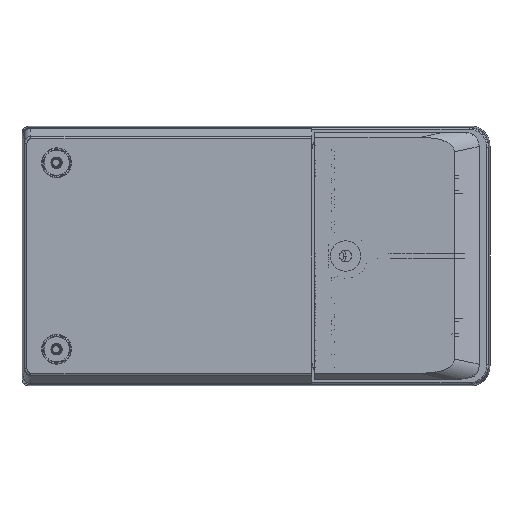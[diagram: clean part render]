
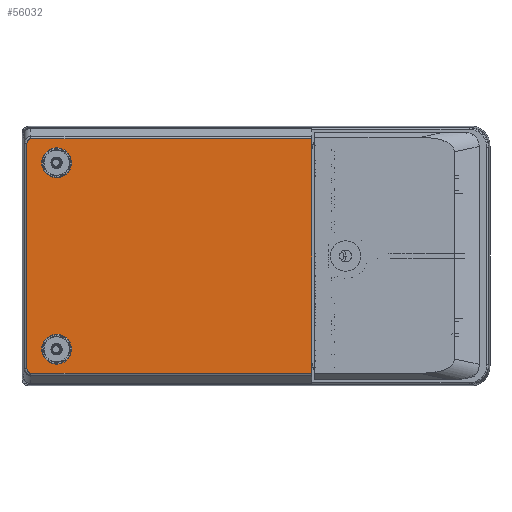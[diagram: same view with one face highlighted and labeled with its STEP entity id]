
A CAD part, front view. The second image highlights one B-rep face of the part: STEP entity #56032.
In plain terms, the highlighted planar face has unit normal (0, -1, 0).
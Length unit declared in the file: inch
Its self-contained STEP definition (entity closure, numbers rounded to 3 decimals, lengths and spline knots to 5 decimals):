
#1891 =( BOUNDED_CURVE ( )  B_SPLINE_CURVE ( 3, ( #24156, #60925, #67048, #30338 ),
 .UNSPECIFIED., .F., .F. ) 
 B_SPLINE_CURVE_WITH_KNOTS ( ( 4, 4 ),
 ( 0., 1.5348 ),
 .UNSPECIFIED. ) 
 CURVE ( )  GEOMETRIC_REPRESENTATION_ITEM ( )  RATIONAL_B_SPLINE_CURVE ( ( 1., 0.813, 0.813, 1. ) ) 
 REPRESENTATION_ITEM ( '' )  );
#3495 = EDGE_CURVE ( 'NONE', #41971, #4680, #66405, .T. ) ;
#3788 = DIRECTION ( 'NONE',  ( 0., 1., 0. ) ) ;
#4680 = VERTEX_POINT ( 'NONE', #6554 ) ;
#4754 = CIRCLE ( 'NONE', #47101, 0.1325 ) ;
#4830 = EDGE_CURVE ( 'NONE', #28452, #29297, #68398, .T. ) ;
#5038 = DIRECTION ( 'NONE',  ( 0., 0., 1. ) ) ;
#6554 = CARTESIAN_POINT ( 'NONE',  ( -1.99831, -0.48, 1.03959 ) ) ;
#7003 = LINE ( 'NONE', #9045, #54145 ) ;
#9045 = CARTESIAN_POINT ( 'NONE',  ( -1.99712, -0.48, 1.0396 ) ) ;
#9421 = ORIENTED_EDGE ( 'NONE', *, *, #73225, .F. ) ;
#10207 = CARTESIAN_POINT ( 'NONE',  ( -2.03205, -0.48, -0.98631 ) ) ;
#11503 = AXIS2_PLACEMENT_3D ( 'NONE', #78492, #41924, #5038 ) ;
#11880 = VERTEX_POINT ( 'NONE', #47797 ) ;
#12666 = PLANE ( 'NONE',  #27396 ) ;
#12914 = CARTESIAN_POINT ( 'NONE',  ( -2.065, -0.48, -1.14 ) ) ;
#13990 = DIRECTION ( 'NONE',  ( 0., 0., -1. ) ) ;
#14758 = CARTESIAN_POINT ( 'NONE',  ( -1.769, -0.48, -0.9595 ) ) ;
#14849 = CARTESIAN_POINT ( 'NONE',  ( -1.769, -0.48, 0.827 ) ) ;
#16718 = LINE ( 'NONE', #68553, #31126 ) ;
#16874 = VERTEX_POINT ( 'NONE', #40749 ) ;
#17002 = CARTESIAN_POINT ( 'NONE',  ( -1.769, -0.48, 0.6945 ) ) ;
#19114 = DIRECTION ( 'NONE',  ( 0., 0., 1. ) ) ;
#19246 = ORIENTED_EDGE ( 'NONE', *, *, #4830, .F. ) ;
#21077 = DIRECTION ( 'NONE',  ( 0., 0., 1. ) ) ;
#23318 = CARTESIAN_POINT ( 'NONE',  ( -2.03205, -0.48, -1.02321 ) ) ;
#23819 = CARTESIAN_POINT ( 'NONE',  ( -1.99734, -0.48, 1.0396 ) ) ;
#24086 = CARTESIAN_POINT ( 'NONE',  ( -1.99831, -0.48, 1.03959 ) ) ;
#24156 = CARTESIAN_POINT ( 'NONE',  ( -1.99831, -0.48, 1.03959 ) ) ;
#24173 = CARTESIAN_POINT ( 'NONE',  ( -1.99767, -0.48, 1.0396 ) ) ;
#24242 = CARTESIAN_POINT ( 'NONE',  ( -1.99799, -0.48, 1.0396 ) ) ;
#26215 = FACE_BOUND ( 'NONE', #50357, .T. ) ;
#27372 = VERTEX_POINT ( 'NONE', #14758 ) ;
#27396 = AXIS2_PLACEMENT_3D ( 'NONE', #12914, #55919, #19114 ) ;
#27594 = EDGE_CURVE ( 'NONE', #56268, #79549, #72895, .T. ) ;
#27900 = AXIS2_PLACEMENT_3D ( 'NONE', #68940, #32244, #75033 ) ;
#28452 = VERTEX_POINT ( 'NONE', #46504 ) ;
#29297 = VERTEX_POINT ( 'NONE', #17002 ) ;
#30338 = CARTESIAN_POINT ( 'NONE',  ( -2.03205, -0.48, 0.99992 ) ) ;
#30734 = EDGE_CURVE ( 'NONE', #16874, #56268, #34030, .T. ) ;
#30811 = CIRCLE ( 'NONE', #11503, 0.1325 ) ;
#31126 = VECTOR ( 'NONE', #62704, 39.37008 ) ;
#31214 = EDGE_CURVE ( 'NONE', #68647, #41971, #7003, .T. ) ;
#31656 = VECTOR ( 'NONE', #13990, 39.37008 ) ;
#32244 = DIRECTION ( 'NONE',  ( 0., 1., 0. ) ) ;
#34030 = LINE ( 'NONE', #10207, #50382 ) ;
#34806 = EDGE_CURVE ( 'NONE', #4680, #16874, #1891, .T. ) ;
#35848 = EDGE_LOOP ( 'NONE', ( #19246, #9421 ) ) ;
#37967 = CARTESIAN_POINT ( 'NONE',  ( -1.99734, -0.48, -1.0396 ) ) ;
#38884 = CIRCLE ( 'NONE', #27900, 0.1325 ) ;
#39359 = EDGE_LOOP ( 'NONE', ( #48258, #52468, #67966, #69571, #53533, #57153, #45367 ) ) ;
#40692 = CARTESIAN_POINT ( 'NONE',  ( -1.769, -0.48, -0.827 ) ) ;
#40749 = CARTESIAN_POINT ( 'NONE',  ( -2.03205, -0.48, 0.99992 ) ) ;
#41540 = ORIENTED_EDGE ( 'NONE', *, *, #54900, .T. ) ;
#41924 = DIRECTION ( 'NONE',  ( 0., -1., 0. ) ) ;
#41971 = VERTEX_POINT ( 'NONE', #75835 ) ;
#42605 = FACE_OUTER_BOUND ( 'NONE', #39359, .T. ) ;
#45367 = ORIENTED_EDGE ( 'NONE', *, *, #30734, .T. ) ;
#46504 = CARTESIAN_POINT ( 'NONE',  ( -1.769, -0.48, 0.9595 ) ) ;
#46866 = DIRECTION ( 'NONE',  ( 0., 0., 1. ) ) ;
#47101 = AXIS2_PLACEMENT_3D ( 'NONE', #40692, #3788, #46866 ) ;
#47797 = CARTESIAN_POINT ( 'NONE',  ( -1.769, -0.48, -0.6945 ) ) ;
#48041 = LINE ( 'NONE', #69229, #31656 ) ;
#48258 = ORIENTED_EDGE ( 'NONE', *, *, #27594, .T. ) ;
#50230 = ORIENTED_EDGE ( 'NONE', *, *, #58785, .T. ) ;
#50357 = EDGE_LOOP ( 'NONE', ( #50230, #41540 ) ) ;
#50382 = VECTOR ( 'NONE', #59622, 39.37008 ) ;
#51189 = CARTESIAN_POINT ( 'NONE',  ( 0.495, -0.48, 1.0396 ) ) ;
#52468 = ORIENTED_EDGE ( 'NONE', *, *, #53968, .T. ) ;
#52546 = VERTEX_POINT ( 'NONE', #54103 ) ;
#53533 = ORIENTED_EDGE ( 'NONE', *, *, #3495, .T. ) ;
#53968 = EDGE_CURVE ( 'NONE', #79549, #52546, #16718, .T. ) ;
#54103 = CARTESIAN_POINT ( 'NONE',  ( 0.495, -0.48, -1.0396 ) ) ;
#54145 = VECTOR ( 'NONE', #58197, 39.37008 ) ;
#54900 = EDGE_CURVE ( 'NONE', #27372, #11880, #38884, .T. ) ;
#55919 = DIRECTION ( 'NONE',  ( 0., 1., 0. ) ) ;
#56032 = ADVANCED_FACE ( 'NONE', ( #26215, #75054, #42605 ), #12666, .F. ) ;
#56268 = VERTEX_POINT ( 'NONE', #65695 ) ;
#57153 = ORIENTED_EDGE ( 'NONE', *, *, #34806, .T. ) ;
#57819 = DIRECTION ( 'NONE',  ( 0., -1., 0. ) ) ;
#58197 = DIRECTION ( 'NONE',  ( -1., 0., 0. ) ) ;
#58785 = EDGE_CURVE ( 'NONE', #11880, #27372, #4754, .T. ) ;
#59622 = DIRECTION ( 'NONE',  ( 0., 0., -1. ) ) ;
#60097 = CARTESIAN_POINT ( 'NONE',  ( -2.01771, -0.48, -1.0396 ) ) ;
#60925 = CARTESIAN_POINT ( 'NONE',  ( -2.01822, -0.48, 1.03896 ) ) ;
#62704 = DIRECTION ( 'NONE',  ( 1., 0., 0. ) ) ;
#65695 = CARTESIAN_POINT ( 'NONE',  ( -2.03205, -0.48, -0.99992 ) ) ;
#66222 = CARTESIAN_POINT ( 'NONE',  ( -2.03205, -0.48, -0.99992 ) ) ;
#66405 =( BOUNDED_CURVE ( )  B_SPLINE_CURVE ( 3, ( #23819, #24173, #24242, #24086 ),
 .UNSPECIFIED., .F., .F. ) 
 B_SPLINE_CURVE_WITH_KNOTS ( ( 4, 4 ),
 ( 6.25565, 6.28319 ),
 .UNSPECIFIED. ) 
 CURVE ( )  GEOMETRIC_REPRESENTATION_ITEM ( )  RATIONAL_B_SPLINE_CURVE ( ( 1., 1., 1., 1. ) ) 
 REPRESENTATION_ITEM ( '' )  );
#67048 = CARTESIAN_POINT ( 'NONE',  ( -2.03205, -0.48, 1.0227 ) ) ;
#67966 = ORIENTED_EDGE ( 'NONE', *, *, #74343, .F. ) ;
#68398 = CIRCLE ( 'NONE', #77129, 0.1325 ) ;
#68553 = CARTESIAN_POINT ( 'NONE',  ( 0.495, -0.48, -1.0396 ) ) ;
#68647 = VERTEX_POINT ( 'NONE', #51189 ) ;
#68940 = CARTESIAN_POINT ( 'NONE',  ( -1.769, -0.48, -0.827 ) ) ;
#69229 = CARTESIAN_POINT ( 'NONE',  ( 0.495, -0.48, 1.23857 ) ) ;
#69571 = ORIENTED_EDGE ( 'NONE', *, *, #31214, .T. ) ;
#72334 = CARTESIAN_POINT ( 'NONE',  ( -1.99734, -0.48, -1.0396 ) ) ;
#72895 =( BOUNDED_CURVE ( )  B_SPLINE_CURVE ( 3, ( #66222, #23318, #60097, #72334 ),
 .UNSPECIFIED., .F., .F. ) 
 B_SPLINE_CURVE_WITH_KNOTS ( ( 4, 4 ),
 ( 1.60679, 3.16912 ),
 .UNSPECIFIED. ) 
 CURVE ( )  GEOMETRIC_REPRESENTATION_ITEM ( )  RATIONAL_B_SPLINE_CURVE ( ( 1., 0.807, 0.807, 1. ) ) 
 REPRESENTATION_ITEM ( '' )  );
#73225 = EDGE_CURVE ( 'NONE', #29297, #28452, #30811, .T. ) ;
#74343 = EDGE_CURVE ( 'NONE', #68647, #52546, #48041, .T. ) ;
#75033 = DIRECTION ( 'NONE',  ( 0., 0., 1. ) ) ;
#75054 = FACE_BOUND ( 'NONE', #35848, .T. ) ;
#75835 = CARTESIAN_POINT ( 'NONE',  ( -1.99734, -0.48, 1.0396 ) ) ;
#77129 = AXIS2_PLACEMENT_3D ( 'NONE', #14849, #57819, #21077 ) ;
#78492 = CARTESIAN_POINT ( 'NONE',  ( -1.769, -0.48, 0.827 ) ) ;
#79549 = VERTEX_POINT ( 'NONE', #37967 ) ;
